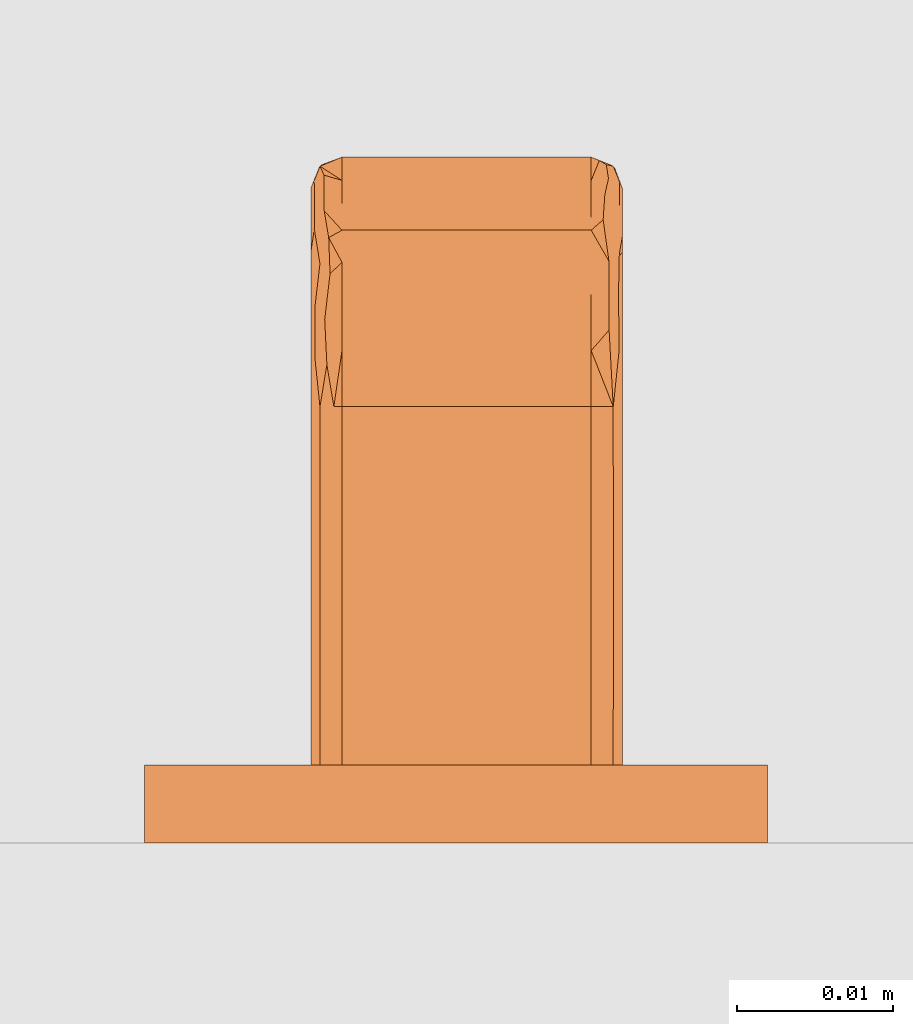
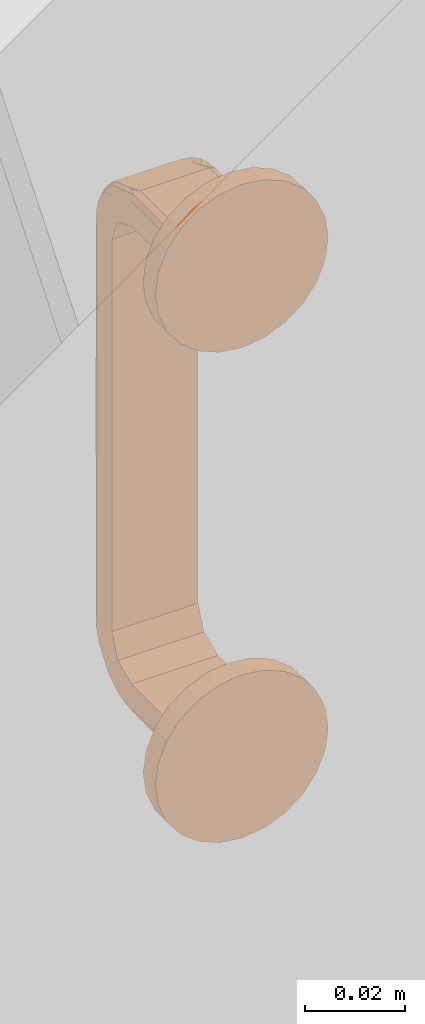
# One storey, part 49 of 67: 1 proxy.
"""IFC4 building model written with IfcOpenShell, lengths in millimetres."""

from ifc_helpers import new_model, entity, si_unit, converted_unit, direction, frame, origin, place, context, subcontext, project, spatial, polygons, source, transform, mapped, material, type_object, type_shapes, element, save


model = new_model("IFC4")

# Units and contexts
model_context = context("Model", 3, precision=0.01, world=origin(), true_north=direction((0.0, 1.0)))
body_context = subcontext(model_context, "Body", "Model", "MODEL_VIEW")
ifc_project = project(units=[si_unit("LENGTHUNIT", "METRE", prefix="MILLI"), si_unit("AREAUNIT", "SQUARE_METRE"), si_unit("VOLUMEUNIT", "CUBIC_METRE"), converted_unit("PLANEANGLEUNIT", "DEGREE", entity("IfcPlaneAngleMeasure", 0.017453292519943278), si_unit("PLANEANGLEUNIT", "RADIAN"), dimensions=[0, 0, 0, 0, 0, 0, 0])], contexts=[model_context])

# Site, building, storey, space
site_placement = place(None, origin())
site = spatial("IfcSite", under=ifc_project, at=site_placement, Name="Tomtens navn", CompositionType="ELEMENT")
building_placement = place(site_placement, origin())
building = spatial("IfcBuilding", under=site, at=building_placement, Name="Byggets navn", CompositionType="ELEMENT")
storey_placement = place(building_placement, origin())
storey = spatial("IfcBuildingStorey", under=building, at=storey_placement, Name="Level 01", CompositionType="ELEMENT", Elevation=2.1993652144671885e-25)
space_placement = place(storey_placement, origin())
space = spatial("IfcSpace", under=storey, at=space_placement, Name="102", CompositionType="ELEMENT", PredefinedType="NOTDEFINED")

# Proxy
ifc_material = material(Name="Handtag, vitt", Category="Unassigned")
building_element_proxy_type = type_object("IfcBuildingElementProxyType", Name="Handtag skåp1:Handtag skåp", PredefinedType="NOTDEFINED", material=ifc_material)
shared_shape = source(origin(), body_context, "Body", "Tessellation", [
    polygons([(8.670220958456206, 4.999999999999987, 4.021099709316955), (-7.329779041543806, 4.999999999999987, 4.021099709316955), (-8.743992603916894, 4.9999999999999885, 3.435313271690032), (-9.32977904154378, 4.999999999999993, 2.021099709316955), (-9.32977904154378, 5.0000000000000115, -4.0210997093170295), (10.67022095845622, 5.0000000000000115, -4.021099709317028), (10.67022095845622, 4.999999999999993, 2.0210997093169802), (10.084434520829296, 4.9999999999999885, 3.435313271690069), (10.67022095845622, 28.000000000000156, 2.0210997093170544), (10.084434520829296, 28.000000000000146, 3.435313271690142), (8.670220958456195, 28.000000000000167, 4.0210997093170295), (8.670220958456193, 15.654960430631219, 4.02109970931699), (10.67022095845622, 17.345040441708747, 2.02109970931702), (10.08659387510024, 16.21238630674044, 3.433150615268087), (10.67022095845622, 28.000000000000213, -4.021099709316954), (10.67022095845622, 33.64193450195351, -6.358065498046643), (10.67022095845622, 35.97890029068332, -11.999999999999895), (10.67022095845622, 35.97890029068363, -107.99999999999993), (10.67022095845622, 33.641934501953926, -113.64193450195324), (10.67022095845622, 28.000000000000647, -115.97890029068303), (10.67022095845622, 4.999999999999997, -115.97890029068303), (10.67022095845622, 4.999999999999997, -122.02109970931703), (10.67022095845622, 28.000000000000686, -122.02109970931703), (10.67022095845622, 37.914414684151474, -117.91441468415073), (10.67022095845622, 42.02109970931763, -107.99999999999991), (10.67022095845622, 42.0210997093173, -11.999999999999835), (10.67022095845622, 37.914414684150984, -2.085585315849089), (-9.32977904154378, 28.000000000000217, -4.021099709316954), (-9.32977904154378, 28.000000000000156, 2.02109970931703), (-9.32977904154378, 37.91441468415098, -2.085585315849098), (-9.32977904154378, 42.02109970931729, -11.999999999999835), (-9.32977904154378, 42.02109970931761, -107.99999999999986), (-9.32977904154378, 37.91441468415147, -117.91441468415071), (-9.32977904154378, 28.00000000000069, -122.02109970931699), (-9.32977904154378, 4.999999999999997, -122.021099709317), (-9.32977904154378, 4.999999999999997, -115.978900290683), (-9.32977904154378, 28.000000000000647, -115.97890029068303), (-9.32977904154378, 33.641934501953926, -113.64193450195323), (-9.32977904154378, 35.97890029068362, -107.99999999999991), (-9.32977904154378, 35.978900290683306, -11.999999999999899), (-9.32977904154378, 33.64193450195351, -6.358065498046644), (-7.329779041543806, 28.00000000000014, 4.0210997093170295), (-8.743992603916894, 28.000000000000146, 3.435313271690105), (-9.32977904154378, 15.654959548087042, 2.021099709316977), (-7.3297790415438, 17.34503999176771, 4.021099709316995), (-8.741829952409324, 16.21238644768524, 3.43747262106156), (10.084434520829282, 43.43531327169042, -11.999999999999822), (8.670220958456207, 44.021099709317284, -11.999999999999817), (8.670220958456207, 39.328628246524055, -0.6713717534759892), (10.67022095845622, 31.60126528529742, 0.5294067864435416), (8.670220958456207, 41.03771385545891, -4.797469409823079), (10.084434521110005, 40.40873190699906, -2.8200071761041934), (8.670220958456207, 35.20253058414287, 1.0377138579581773), (9.809043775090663, 37.34144424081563, 0.5752165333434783), (9.818751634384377, 32.92350079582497, 2.8642465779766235), (10.67022095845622, 39.96775719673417, -7.042792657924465), (10.377327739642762, 28.000000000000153, 2.7282064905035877), (8.670220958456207, 42.529406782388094, -8.398734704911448), (9.779150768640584, 42.65191997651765, -6.400304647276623), (10.431420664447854, 34.75591670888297, 1.357514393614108), (10.447049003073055, 37.64140257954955, -0.5884869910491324), (10.67022095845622, 34.7578399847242, -0.7780892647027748), (10.453824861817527, 31.52927433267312, 2.5026982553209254), (8.670220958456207, 31.601265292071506, 2.5294067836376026), (8.670220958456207, 40.18317105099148, -2.734420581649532), (9.435587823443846, 40.00295364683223, -1.6197407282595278), (9.543801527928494, 41.59747716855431, -3.9137042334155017), (10.67022095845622, 38.941085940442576, -4.564188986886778), (10.50224699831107, 40.95405539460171, -4.794062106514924), (10.477567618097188, 42.45420227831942, -8.47617064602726), (9.193272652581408, 43.80444460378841, -11.999999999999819), (9.638611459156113, 43.538770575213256, -9.303396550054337), (10.67022095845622, 40.99442845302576, -9.521396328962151), (-7.329779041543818, 44.021099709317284, -11.999999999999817), (-8.743992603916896, 43.43531327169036, -11.999999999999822), (-7.329779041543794, 39.328628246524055, -0.6713717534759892), (-7.329779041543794, 35.20253057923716, 1.0377138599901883), (-8.743992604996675, 37.179992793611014, 0.40873192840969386), (-9.32977904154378, 40.52940677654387, -8.398734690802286), (-7.329779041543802, 41.03771385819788, -4.797469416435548), (-8.468601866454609, 40.57521654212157, -2.6585557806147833), (-8.47830971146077, 42.864246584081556, -7.076499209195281), (-9.32977904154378, 32.95720734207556, -0.03224280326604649), (-9.036885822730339, 42.728206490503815, -11.999999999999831), (-7.329779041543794, 31.601265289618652, 2.529406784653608), (-8.43870885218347, 33.59969531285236, 2.6519199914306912), (-9.090978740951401, 41.357514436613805, -5.244083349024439), (-9.106607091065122, 39.41151304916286, -2.358597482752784), (-9.32977904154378, 39.22191073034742, -5.242160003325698), (-9.113382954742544, 42.502698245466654, -8.470725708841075), (-7.32977904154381, 42.52940678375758, -8.398734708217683), (-7.329779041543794, 37.26557941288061, 0.18317105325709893), (-8.095145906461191, 36.54048464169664, 1.37463273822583), (-8.18279176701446, 38.85536792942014, -0.47819170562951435), (-9.32977904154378, 35.43581101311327, -1.0589140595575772), (-7.852830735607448, 28.00000000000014, 3.8044446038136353), (-8.29816953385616, 30.69660343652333, 3.5387705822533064), (-9.060718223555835, 31.048754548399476, 2.7104148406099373), (-9.074370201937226, 34.340507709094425, 1.5930015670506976), (-9.32977904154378, 30.478603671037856, 0.9944284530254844), (-7.32977904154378, 33.664314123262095, 1.6748639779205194), (8.670220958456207, 33.664314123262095, 1.6748639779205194), (8.670220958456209, 30.748770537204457, 2.882521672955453), (-7.32977904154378, 41.67486397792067, -6.335685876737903), (8.670220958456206, 41.67486397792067, -6.335685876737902), (8.670220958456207, 40.50174611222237, -3.503528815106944), (-7.32977904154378, 36.496471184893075, 0.5017461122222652), (8.670220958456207, 36.496471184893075, 0.5017461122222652), (-7.32977904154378, 30.83215706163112, 2.847981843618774), (8.670220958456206, 42.882521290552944, -9.251228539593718), (-7.32977904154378, 42.84798184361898, -9.167842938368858), (-7.32977904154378, 40.50174611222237, -3.503528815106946), (10.084434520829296, 43.435313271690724, -107.99999999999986), (8.670220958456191, 44.0210997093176, -107.99999999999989), (10.67022095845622, 42.02109970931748, -61.380159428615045), (8.670220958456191, 44.021099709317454, -60.0000005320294), (8.670220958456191, 44.02109970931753, -83.30992070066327), (10.67022095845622, 42.021099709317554, -84.69007971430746), (8.670220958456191, 44.021099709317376, -36.690079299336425), (10.67022095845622, 42.02109970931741, -36.690079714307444), (10.67022095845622, 42.021099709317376, -24.34503985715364), (8.670220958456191, 44.02109970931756, -95.65496088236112), (8.670220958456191, 44.02109970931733, -24.34504018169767), (10.67022095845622, 42.021099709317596, -95.65496014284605), (10.084434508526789, 43.43531328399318, -90.17251993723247), (10.67022095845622, 42.02109970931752, -73.035119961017), (10.043884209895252, 43.4747328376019, -67.20763959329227), (10.084434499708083, 43.435313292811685, -30.517560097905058), (10.084434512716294, 43.435313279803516, -43.72292802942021), (10.67022095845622, 42.021099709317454, -49.03511957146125), (10.049878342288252, 43.469044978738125, -55.46284370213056), (8.67022095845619, 44.02109970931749, -71.65496114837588), (10.18815291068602, 43.32336027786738, -78.66752152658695), (8.670220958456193, 44.02109970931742, -48.34503991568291), (-7.329779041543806, 44.0210997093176, -107.99999999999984), (-8.743992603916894, 43.43531327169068, -107.99999999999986), (-7.3297790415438, 44.021099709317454, -61.38015981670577), (-9.32977904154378, 42.021099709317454, -59.999999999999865), (-9.32977904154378, 42.02109970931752, -83.30992051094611), (-7.329779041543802, 44.02109970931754, -84.69008022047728), (-9.32977904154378, 42.02109970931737, -36.69007991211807), (-7.329779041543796, 44.021099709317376, -36.69007990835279), (-7.329779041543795, 44.02109970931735, -24.345039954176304), (-9.32977904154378, 42.02109970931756, -95.65496025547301), (-9.32977904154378, 42.02109970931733, -24.345040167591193), (-7.329779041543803, 44.021099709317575, -95.65496067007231), (-8.743992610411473, 43.43531326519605, -90.17252002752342), (-7.3297790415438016, 44.0210997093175, -73.03512001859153), (-8.783412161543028, 43.39476296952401, -67.2076399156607), (-8.743992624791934, 43.4353132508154, -30.517560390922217), (-8.74399260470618, 43.43531327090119, -43.72292838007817), (-7.329779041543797, 44.02109970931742, -49.03511986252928), (-8.777724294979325, 43.40075710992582, -55.46284405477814), (-9.32977904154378, 42.02109970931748, -71.65496025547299), (-8.632039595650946, 43.53903167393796, -78.6675217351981), (-9.32977904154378, 42.02109970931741, -48.345039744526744), (10.08443452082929, 28.0000000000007, -123.43531327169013), (8.670220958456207, 28.000000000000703, -124.02109970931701), (8.670220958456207, 39.32862824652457, -119.32862824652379), (10.67022095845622, 40.52940678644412, -111.60126528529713), (8.670220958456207, 35.202530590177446, -121.03771385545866), (10.084434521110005, 37.179992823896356, -120.4087319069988), (8.670220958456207, 41.03771385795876, -115.20253058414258), (9.809043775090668, 40.575216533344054, -117.34144424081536), (9.818751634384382, 42.864246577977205, -112.9235007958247), (10.67022095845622, 32.95720734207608, -119.96775719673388), (10.377327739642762, 42.728206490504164, -107.99999999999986), (8.670220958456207, 31.601265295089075, -122.52940678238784), (9.779150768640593, 33.5996953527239, -122.65191997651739), (10.431420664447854, 41.357514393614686, -114.7559167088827), (10.447049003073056, 39.41151300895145, -117.64140257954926), (10.67022095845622, 39.2219107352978, -114.75783998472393), (10.453824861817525, 42.50269825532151, -111.52927433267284), (8.670220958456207, 42.52940678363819, -111.60126529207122), (8.670220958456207, 37.26557941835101, -120.18317105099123), (9.43558782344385, 38.38025927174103, -120.00295364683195), (9.543801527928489, 36.08629576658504, -121.59747716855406), (10.67022095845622, 35.435811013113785, -118.9410859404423), (10.50224699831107, 35.20593789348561, -120.95405539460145), (10.477567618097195, 31.523829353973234, -122.45420227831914), (9.193272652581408, 28.000000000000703, -123.80444460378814), (9.638611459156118, 30.696603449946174, -123.538770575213), (10.67022095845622, 30.47860367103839, -120.99442845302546), (-7.329779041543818, 28.000000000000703, -124.02109970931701), (-8.743992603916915, 28.0000000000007, -123.43531327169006), (-7.329779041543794, 39.32862824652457, -119.32862824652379), (-7.329779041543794, 41.03771385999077, -115.20253057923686), (-8.743992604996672, 40.40873192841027, -117.17999279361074), (-9.32977904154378, 31.601265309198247, -120.52940677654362), (-7.329779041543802, 35.20253058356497, -121.03771385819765), (-8.468601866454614, 37.34144421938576, -120.57521654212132), (-8.478309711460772, 32.92350079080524, -122.8642465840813), (-9.32977904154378, 39.967757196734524, -112.95720734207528), (-9.036885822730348, 28.000000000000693, -122.72820649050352), (-7.329779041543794, 42.529406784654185, -111.60126528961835), (-8.438708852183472, 42.65191999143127, -113.59969531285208), (-9.090978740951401, 34.75591665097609, -121.35751443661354), (-9.106607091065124, 37.64140251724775, -119.41151304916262), (-9.32977904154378, 34.75783999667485, -119.22191073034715), (-9.113382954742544, 31.529274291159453, -122.50269824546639), (-7.329779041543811, 31.601265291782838, -122.52940678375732), (-7.329779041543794, 40.18317105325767, -117.26557941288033), (-8.095145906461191, 41.37463273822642, -116.54048464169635), (-8.182791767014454, 39.52180829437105, -118.85536792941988), (-9.32977904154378, 38.941085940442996, -115.435811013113), (-7.852830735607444, 43.804444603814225, -107.99999999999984), (-8.298169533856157, 43.53877058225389, -110.69660343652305), (-9.060718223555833, 42.710414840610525, -111.04875454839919), (-9.074370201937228, 41.59300156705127, -114.34050770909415), (-9.32977904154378, 40.99442845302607, -110.47860367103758), (-7.32977904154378, 41.6748639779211, -113.66431412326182), (8.670220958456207, 41.6748639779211, -113.66431412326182), (8.670220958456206, 42.88252167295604, -110.74877053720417), (-7.32977904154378, 33.66431412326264, -121.67486397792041), (8.670220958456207, 33.66431412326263, -121.67486397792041), (8.670220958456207, 36.4964711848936, -120.50174611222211), (-7.32977904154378, 40.50174611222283, -116.4964711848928), (8.670220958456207, 40.50174611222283, -116.4964711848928), (-7.32977904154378, 42.84798184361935, -110.83215706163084), (8.670220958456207, 30.748771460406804, -122.88252129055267), (-7.329779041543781, 30.83215706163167, -122.84798184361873), (-7.32977904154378, 36.49647118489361, -120.50174611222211), (8.670220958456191, 4.99999999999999, -124.021099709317), (10.084434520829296, 4.99999999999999, -123.43531327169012), (-8.743992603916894, 4.99999999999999, -123.43531327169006), (-7.32977904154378, 4.99999999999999, -124.02109970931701), (8.670220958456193, 17.34504139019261, -124.021099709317), (10.67022095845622, 15.65496022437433, -122.02109970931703), (10.08659387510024, 16.787613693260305, -123.43315061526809), (-9.32977904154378, 17.34504010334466, -122.02109970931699), (-7.3297790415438, 15.6549594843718, -124.021099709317), (-8.741829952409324, 16.787613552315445, -123.43747262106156)], [[[4, 5, 6, 7, 8, 1, 2, 3]], [[18, 17, 40, 39]], [[226, 223, 224, 22, 21, 36, 35, 225]], [[13, 9, 57, 10]], [[14, 13, 10]], [[11, 12, 14]], [[1, 8, 12]], [[12, 8, 14]], [[13, 14, 7]], [[14, 8, 7]], [[14, 10, 11]], [[6, 15, 16, 17, 18, 19, 20, 21, 22, 228, 23, 183, 166, 178, 24, 172, 160, 25, 124, 118, 126, 115, 130, 120, 121, 26, 73, 56, 68, 27, 62, 50, 9, 13, 7]], [[15, 6, 5, 28]], [[158, 227, 223, 226, 231, 184]], [[36, 37, 38, 39, 40, 41, 28, 5, 4, 44, 29, 100, 83, 95, 30, 89, 79, 31, 145, 141, 156, 138, 154, 139, 144, 32, 210, 193, 205, 33, 199, 189, 34, 230, 35]], [[45, 42, 96, 43]], [[46, 45, 43]], [[29, 44, 46]], [[4, 3, 44]], [[44, 3, 46]], [[45, 46, 2]], [[46, 3, 2]], [[46, 43, 29]], [[2, 1, 12, 11, 42, 45]], [[21, 20, 37, 36]], [[60, 62, 61]], [[68, 56, 69]], [[66, 65, 49]], [[55, 54, 53]], [[59, 58, 105, 51]], [[67, 51, 106, 65]], [[69, 56, 70]], [[50, 60, 63]], [[55, 64, 10]], [[59, 67, 52]], [[54, 49, 108, 53]], [[72, 71, 58]], [[54, 55, 60]], [[69, 61, 68]], [[66, 52, 67]], [[68, 61, 27]], [[55, 10, 63]], [[63, 10, 57, 9]], [[71, 48, 110, 58]], [[70, 26, 47]], [[54, 60, 61]], [[63, 9, 50]], [[54, 61, 52]], [[27, 61, 62]], [[60, 50, 62]], [[63, 60, 55]], [[10, 64, 103, 11]], [[55, 53, 102, 64]], [[66, 54, 52]], [[66, 49, 54]], [[66, 67, 65]], [[67, 59, 51]], [[69, 52, 61]], [[69, 59, 52]], [[59, 69, 70]], [[70, 72, 59]], [[73, 26, 70, 56]], [[47, 71, 72]], [[47, 72, 70]], [[59, 72, 58]], [[15, 28, 41, 16]], [[41, 40, 17, 16]], [[96, 42, 109, 85]], [[79, 87, 90]], [[86, 85, 101, 77]], [[86, 99, 98]], [[93, 77, 107, 92]], [[81, 82, 87]], [[80, 82, 81]], [[78, 95, 99]], [[87, 89, 88]], [[78, 99, 86]], [[93, 94, 78]], [[82, 91, 75]], [[81, 76, 112, 80]], [[94, 93, 92]], [[88, 78, 94]], [[95, 88, 30]], [[82, 75, 90]], [[90, 75, 84, 31]], [[43, 97, 98]], [[86, 98, 97]], [[81, 87, 88]], [[90, 31, 79]], [[94, 81, 88]], [[30, 88, 89]], [[87, 79, 89]], [[90, 87, 82]], [[75, 91, 111, 74]], [[82, 80, 104, 91]], [[93, 86, 77]], [[93, 78, 86]], [[94, 76, 81]], [[76, 94, 92]], [[78, 88, 95]], [[43, 96, 97]], [[97, 96, 85]], [[86, 97, 85]], [[98, 29, 43]], [[99, 95, 83, 100]], [[100, 98, 99]], [[100, 29, 98]], [[42, 11, 103, 64, 102, 53, 108, 49, 76, 92, 107, 77, 101, 85, 109]], [[105, 58, 110, 48, 74, 111, 91, 104, 80, 112, 76, 49, 65, 106, 51]], [[47, 26, 121, 120, 130, 129, 128]], [[124, 25, 167, 113, 125, 118]], [[118, 133, 126]], [[127, 115, 126]], [[123, 48, 71, 47, 128, 129, 134, 119]], [[113, 114, 122, 117, 125]], [[129, 130, 131]], [[115, 131, 130]], [[133, 127, 126]], [[132, 116, 127]], [[125, 117, 133]], [[116, 134, 131]], [[127, 116, 131]], [[127, 131, 115]], [[134, 129, 131]], [[132, 127, 133]], [[117, 132, 133]], [[125, 133, 118]], [[75, 74, 143, 142, 152, 151, 150]], [[146, 135, 206, 136, 147, 140]], [[140, 155, 148]], [[149, 137, 148]], [[145, 31, 84, 75, 150, 151, 156, 141]], [[136, 32, 144, 139, 147]], [[151, 152, 153]], [[137, 153, 152]], [[155, 149, 148]], [[154, 138, 149]], [[147, 139, 155]], [[138, 156, 153]], [[149, 138, 153]], [[149, 153, 137]], [[156, 151, 153]], [[154, 149, 155]], [[139, 154, 155]], [[147, 155, 140]], [[74, 48, 123, 119, 134, 116, 132, 117, 122, 114, 135, 146, 140, 148, 137, 152, 142, 143]], [[170, 172, 171]], [[178, 166, 179]], [[176, 175, 159]], [[165, 164, 163]], [[169, 168, 215, 161]], [[177, 161, 216, 175]], [[179, 166, 180]], [[160, 170, 173]], [[165, 174, 113]], [[169, 177, 162]], [[164, 159, 218, 163]], [[182, 181, 168]], [[164, 165, 170]], [[179, 171, 178]], [[176, 162, 177]], [[178, 171, 24]], [[165, 113, 173]], [[173, 113, 167, 25]], [[181, 158, 220, 168]], [[180, 23, 157]], [[164, 170, 171]], [[173, 25, 160]], [[164, 171, 162]], [[24, 171, 172]], [[170, 160, 172]], [[173, 170, 165]], [[113, 174, 213, 114]], [[165, 163, 212, 174]], [[176, 164, 162]], [[176, 159, 164]], [[176, 177, 175]], [[177, 169, 161]], [[179, 162, 171]], [[179, 169, 162]], [[169, 179, 180]], [[180, 182, 169]], [[183, 23, 180, 166]], [[157, 181, 182]], [[157, 182, 180]], [[169, 182, 168]], [[18, 39, 38, 19]], [[38, 37, 20, 19]], [[206, 135, 219, 195]], [[189, 197, 200]], [[196, 195, 211, 187]], [[196, 209, 208]], [[203, 187, 217, 202]], [[191, 192, 197]], [[190, 192, 191]], [[188, 205, 209]], [[197, 199, 198]], [[188, 209, 196]], [[203, 204, 188]], [[192, 201, 185]], [[191, 186, 222, 190]], [[204, 203, 202]], [[188, 196, 203]], [[205, 198, 33]], [[192, 185, 200]], [[200, 185, 194, 34]], [[136, 207, 208]], [[196, 208, 207]], [[191, 197, 198]], [[200, 34, 189]], [[204, 191, 198]], [[33, 198, 199]], [[197, 189, 199]], [[200, 197, 192]], [[185, 201, 221, 184]], [[192, 190, 214, 201]], [[187, 203, 196]], [[188, 204, 198]], [[204, 186, 191]], [[186, 204, 202]], [[188, 198, 205]], [[136, 206, 207]], [[207, 206, 195]], [[196, 207, 195]], [[208, 32, 136]], [[209, 205, 193, 210]], [[210, 208, 209]], [[210, 32, 208]], [[135, 114, 213, 174, 212, 163, 218, 159, 186, 202, 217, 187, 211, 195, 219]], [[215, 168, 220, 158, 184, 221, 201, 214, 190, 222, 186, 159, 175, 216, 161]], [[22, 224, 228]], [[229, 228, 224]], [[223, 227, 229]], [[227, 158, 181, 157]], [[227, 157, 229]], [[228, 229, 23]], [[229, 157, 23]], [[229, 224, 223]], [[226, 225, 231]], [[232, 231, 225]], [[35, 230, 232]], [[230, 34, 194, 185]], [[230, 185, 232]], [[231, 232, 184]], [[232, 185, 184]], [[232, 225, 35]]], closed=True),
    polygons([(-20.00000000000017, 4.999999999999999, 4.9806020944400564e-15), (-19.318516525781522, 4.999999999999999, 5.176380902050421), (-17.320508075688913, 4.999999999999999, 9.999999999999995), (-14.142135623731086, 4.999999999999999, 14.142135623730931), (-10.000000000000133, 4.999999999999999, 17.320508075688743), (-5.176380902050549, 4.999999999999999, 19.318516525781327), (-1.3958834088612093e-13, 4.999999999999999, 19.99999999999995), (5.176380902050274, 4.999999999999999, 19.31851652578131), (9.99999999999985, 4.999999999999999, 17.32050807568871), (14.142135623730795, 4.999999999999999, 14.142135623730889), (17.32050807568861, 4.999999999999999, 9.999999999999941), (19.3185165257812, 4.999999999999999, 5.17638090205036), (19.999999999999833, 4.999999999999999, -1.622393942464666e-13), (19.318516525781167, 4.999999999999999, -5.176380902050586), (17.320508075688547, 4.999999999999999, -10.000000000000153), (14.142135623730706, 4.999999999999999, -14.142135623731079), (9.999999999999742, 4.999999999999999, -17.320508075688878), (5.176380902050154, 4.999999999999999, -19.31851652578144), (-2.580269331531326e-13, 4.999999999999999, -20.00000000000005), (-5.176380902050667, 4.999999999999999, -19.318516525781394), (-10.000000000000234, 4.999999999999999, -17.320508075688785), (-14.14213562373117, 4.999999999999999, -14.142135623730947), (-17.320508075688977, 4.999999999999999, -9.999999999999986), (-19.318516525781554, 4.999999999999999, -5.176380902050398), (-20.00000000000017, 0.0, 1.386238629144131e-14), (-19.318516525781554, 0.0, -5.176380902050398), (-17.320508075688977, 0.0, -9.999999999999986), (-14.14213562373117, 0.0, -14.142135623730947), (-10.000000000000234, 0.0, -17.320508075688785), (-5.176380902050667, 0.0, -19.318516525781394), (-2.580269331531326e-13, 0.0, -20.00000000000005), (5.176380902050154, 0.0, -19.31851652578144), (9.999999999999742, 0.0, -17.320508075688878), (14.142135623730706, 0.0, -14.142135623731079), (17.320508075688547, 0.0, -10.000000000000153), (19.318516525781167, 0.0, -5.176380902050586), (19.999999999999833, 0.0, -5.075939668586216e-14), (19.3185165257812, 0.0, 5.17638090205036), (17.32050807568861, 0.0, 9.999999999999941), (14.142135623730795, 0.0, 14.142135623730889), (9.99999999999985, 0.0, 17.32050807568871), (5.176380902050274, 0.0, 19.31851652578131), (-1.3958834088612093e-13, 0.0, 19.99999999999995), (-5.176380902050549, 0.0, 19.318516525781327), (-10.000000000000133, 0.0, 17.320508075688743), (-14.142135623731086, 0.0, 14.142135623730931), (-17.320508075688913, 0.0, 9.999999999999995), (-19.318516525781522, 0.0, 5.176380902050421)], [[[16, 17, 18, 19, 20, 21, 22, 23, 24, 1, 2, 3, 4, 5, 6, 7, 8, 9, 10, 11, 12, 13, 14, 15]], [[41, 42, 43, 44, 45, 46, 47, 48, 25, 26, 27, 28, 29, 30, 31, 32, 33, 34, 35, 36, 37, 38, 39, 40]], [[25, 1, 24, 26]], [[26, 24, 23, 27]], [[29, 28, 22, 21]], [[22, 28, 27, 23]], [[30, 29, 21, 20]], [[30, 20, 19, 31]], [[31, 19, 18, 32]], [[32, 18, 17, 33]], [[35, 34, 16, 15]], [[16, 34, 33, 17]], [[36, 35, 15, 14]], [[36, 14, 13, 37]], [[37, 13, 12, 38]], [[38, 12, 11, 39]], [[41, 40, 10, 9]], [[10, 40, 39, 11]], [[42, 41, 9, 8]], [[42, 8, 7, 43]], [[43, 7, 6, 44]], [[44, 6, 5, 45]], [[47, 46, 4, 3]], [[4, 46, 45, 5]], [[48, 47, 3, 2]], [[48, 2, 1, 25]]], closed=True),
    polygons([(-20.000000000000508, 4.999999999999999, -120.00000000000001), (-19.31851652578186, 4.999999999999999, -114.82361909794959), (-17.320508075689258, 4.999999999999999, -110.00000000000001), (-14.142135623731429, 4.999999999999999, -105.85786437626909), (-10.000000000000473, 4.999999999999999, -102.67949192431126), (-5.176380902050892, 4.999999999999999, -100.68148347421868), (-4.779843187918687e-13, 4.999999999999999, -100.00000000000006), (5.176380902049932, 4.999999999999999, -100.6814834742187), (9.99999999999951, 4.999999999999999, -102.6794919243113), (14.142135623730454, 4.999999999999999, -105.85786437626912), (17.32050807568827, 4.999999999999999, -110.00000000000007), (19.31851652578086, 4.999999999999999, -114.82361909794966), (19.999999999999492, 4.999999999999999, -120.00000000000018), (19.318516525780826, 4.999999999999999, -125.1763809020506), (17.320508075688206, 4.999999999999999, -130.00000000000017), (14.142135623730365, 4.999999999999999, -134.1421356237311), (9.999999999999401, 4.999999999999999, -137.3205080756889), (5.176380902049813, 4.999999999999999, -139.31851652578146), (-6.006528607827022e-13, 4.999999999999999, -140.00000000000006), (-5.176380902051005, 4.999999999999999, -139.3185165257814), (-10.000000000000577, 4.999999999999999, -137.3205080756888), (-14.142135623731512, 4.999999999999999, -134.14213562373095), (-17.32050807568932, 4.999999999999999, -130.0), (-19.31851652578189, 4.999999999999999, -125.17638090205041), (-20.000000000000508, 0.0, -120.0), (-19.31851652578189, 0.0, -125.17638090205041), (-17.32050807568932, 0.0, -130.0), (-14.142135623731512, 0.0, -134.14213562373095), (-10.000000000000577, 0.0, -137.3205080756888), (-5.176380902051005, 0.0, -139.3185165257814), (-6.006528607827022e-13, 0.0, -140.00000000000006), (5.176380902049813, 0.0, -139.31851652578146), (9.999999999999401, 0.0, -137.3205080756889), (14.142135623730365, 0.0, -134.1421356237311), (17.320508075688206, 0.0, -130.00000000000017), (19.318516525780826, 0.0, -125.1763809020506), (19.999999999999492, 0.0, -120.00000000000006), (19.31851652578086, 0.0, -114.82361909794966), (17.32050807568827, 0.0, -110.00000000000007), (14.142135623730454, 0.0, -105.85786437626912), (9.99999999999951, 0.0, -102.6794919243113), (5.176380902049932, 0.0, -100.6814834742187), (-4.779843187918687e-13, 0.0, -100.00000000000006), (-5.176380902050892, 0.0, -100.68148347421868), (-10.000000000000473, 0.0, -102.67949192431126), (-14.142135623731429, 0.0, -105.85786437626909), (-17.320508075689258, 0.0, -110.00000000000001), (-19.31851652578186, 0.0, -114.82361909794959)], [[[17, 18, 19, 20, 21, 22, 23, 24, 1, 2, 3, 4, 5, 6, 7, 8, 9, 10, 11, 12, 13, 14, 15, 16]], [[41, 42, 43, 44, 45, 46, 47, 48, 25, 26, 27, 28, 29, 30, 31, 32, 33, 34, 35, 36, 37, 38, 39, 40]], [[25, 1, 24, 26]], [[26, 24, 23, 27]], [[29, 28, 22, 21]], [[22, 28, 27, 23]], [[30, 29, 21, 20]], [[30, 20, 19, 31]], [[31, 19, 18, 32]], [[32, 18, 17, 33]], [[35, 34, 16, 15]], [[16, 34, 33, 17]], [[36, 35, 15, 14]], [[36, 14, 13, 37]], [[37, 13, 12, 38]], [[38, 12, 11, 39]], [[41, 40, 10, 9]], [[10, 40, 39, 11]], [[42, 41, 9, 8]], [[42, 8, 7, 43]], [[43, 7, 6, 44]], [[44, 6, 5, 45]], [[47, 46, 4, 3]], [[4, 46, 45, 5]], [[48, 47, 3, 2]], [[48, 2, 1, 25]]], closed=True),
])
type_shapes(building_element_proxy_type, [shared_shape])
proxy_placement = place(space_placement, frame((68271.85352810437, 18543.466456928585, 1120.0)))
element("IfcBuildingElementProxy", 1, at=proxy_placement, inside=space, type_object=building_element_proxy_type, material=ifc_material, Name="Handtag skåp1:Handtag skåp", PredefinedType="NOTDEFINED", context=body_context, shape_type="MappedRepresentation", body=[
    mapped(shared_shape, transform((0.0, 0.0, 0.0), scale=1.0)),
])

save(model, "model.ifc")
